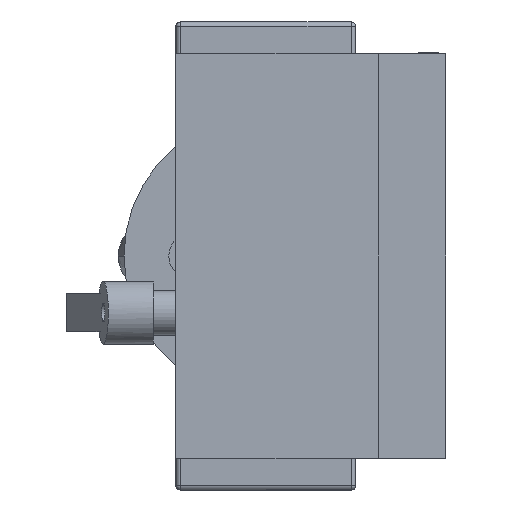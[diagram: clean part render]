
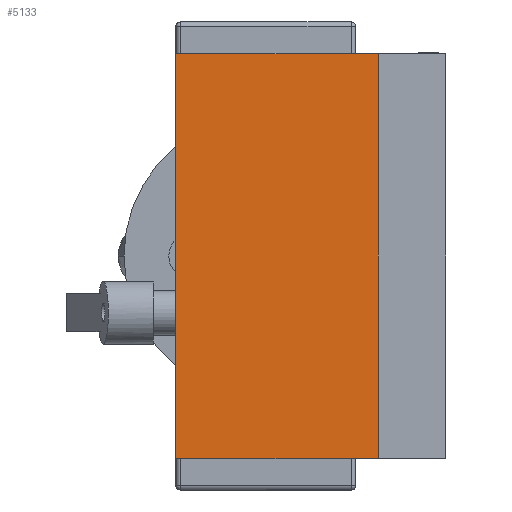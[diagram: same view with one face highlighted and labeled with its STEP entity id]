
A CAD part, left-side view. The second image highlights one B-rep face of the part: STEP entity #5133.
In plain terms, the highlighted planar face has unit normal (-1, 0, 0).
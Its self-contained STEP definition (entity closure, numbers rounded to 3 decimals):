
#1265 = DIRECTION ( 'NONE',  ( 1., 0., 0. ) ) ;
#2329 = VERTEX_POINT ( 'NONE', #12992 ) ;
#2713 = VERTEX_POINT ( 'NONE', #6905 ) ;
#3153 = CARTESIAN_POINT ( 'NONE',  ( -210., 37.5, 45. ) ) ;
#3498 = CARTESIAN_POINT ( 'NONE',  ( -210., 15., 0. ) ) ;
#4111 = CARTESIAN_POINT ( 'NONE',  ( -210., 37.5, 0. ) ) ;
#4404 = VECTOR ( 'NONE', #7494, 1000. ) ;
#4414 = DIRECTION ( 'NONE',  ( 0., -1., 0. ) ) ;
#4506 = ORIENTED_EDGE ( 'NONE', *, *, #9027, .F. ) ;
#5133 = ADVANCED_FACE ( 'NONE', ( #15173 ), #12036, .F. ) ;
#6155 = VECTOR ( 'NONE', #6655, 1000. ) ;
#6242 = LINE ( 'NONE', #3153, #11521 ) ;
#6537 = DIRECTION ( 'NONE',  ( 0., 0., -1. ) ) ;
#6655 = DIRECTION ( 'NONE',  ( 0., 0., 1. ) ) ;
#6905 = CARTESIAN_POINT ( 'NONE',  ( -210., 15., -45. ) ) ;
#7172 = CARTESIAN_POINT ( 'NONE',  ( -210., 37.5, -45. ) ) ;
#7200 = VERTEX_POINT ( 'NONE', #10304 ) ;
#7288 = ORIENTED_EDGE ( 'NONE', *, *, #15389, .F. ) ;
#7494 = DIRECTION ( 'NONE',  ( 0., 0., -1. ) ) ;
#8914 = ORIENTED_EDGE ( 'NONE', *, *, #13415, .F. ) ;
#9027 = EDGE_CURVE ( 'NONE', #2713, #2329, #13386, .T. ) ;
#9102 = EDGE_LOOP ( 'NONE', ( #7288, #15865, #4506, #8914 ) ) ;
#9692 = LINE ( 'NONE', #3498, #4404 ) ;
#10214 = DIRECTION ( 'NONE',  ( 0., 1., 0. ) ) ;
#10304 = CARTESIAN_POINT ( 'NONE',  ( -210., 15., 45. ) ) ;
#10392 = EDGE_CURVE ( 'NONE', #2329, #13778, #12504, .T. ) ;
#11521 = VECTOR ( 'NONE', #4414, 1000. ) ;
#12036 = PLANE ( 'NONE',  #16146 ) ;
#12504 = LINE ( 'NONE', #14741, #6155 ) ;
#12992 = CARTESIAN_POINT ( 'NONE',  ( -210., 60., -45. ) ) ;
#13386 = LINE ( 'NONE', #7172, #17376 ) ;
#13415 = EDGE_CURVE ( 'NONE', #7200, #2713, #9692, .T. ) ;
#13778 = VERTEX_POINT ( 'NONE', #16620 ) ;
#14741 = CARTESIAN_POINT ( 'NONE',  ( -210., 60., 0. ) ) ;
#15173 = FACE_OUTER_BOUND ( 'NONE', #9102, .T. ) ;
#15389 = EDGE_CURVE ( 'NONE', #13778, #7200, #6242, .T. ) ;
#15865 = ORIENTED_EDGE ( 'NONE', *, *, #10392, .F. ) ;
#16146 = AXIS2_PLACEMENT_3D ( 'NONE', #4111, #1265, #6537 ) ;
#16620 = CARTESIAN_POINT ( 'NONE',  ( -210., 60., 45. ) ) ;
#17376 = VECTOR ( 'NONE', #10214, 1000. ) ;
